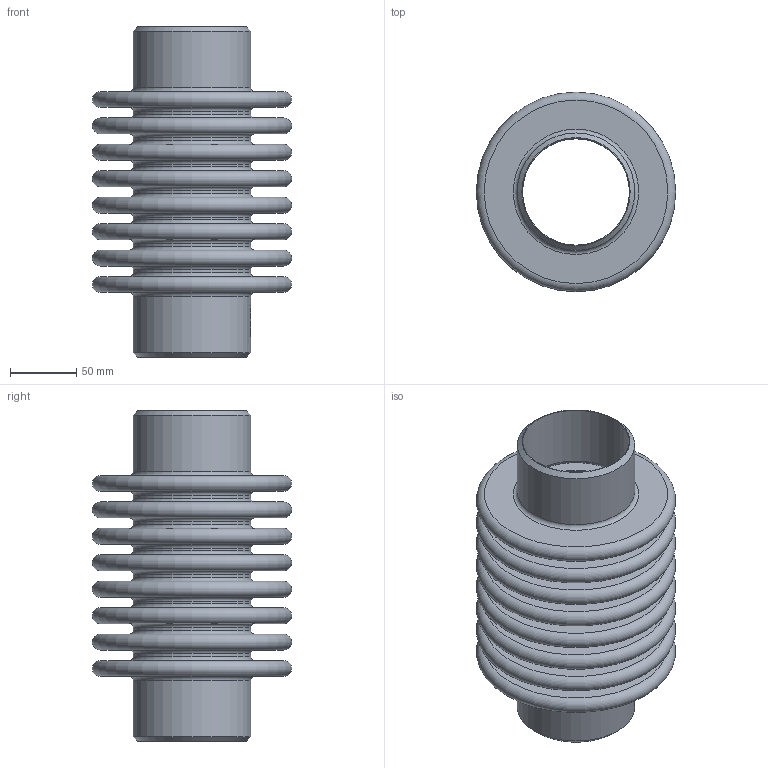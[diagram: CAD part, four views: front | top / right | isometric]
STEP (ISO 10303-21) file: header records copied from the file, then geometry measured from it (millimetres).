
FILE_DESCRIPTION(/* description */ ('D140-02123','CAx-IF Rec.Pracs.---Representation and Presentation of Product Manufacturing Information (PMI)---4.0---2014-10-13'),/* implementation_level */ '2;1');
FILE_NAME(/* name */ '',/* time_stamp */ '2026-04-13T21:13:38+03:00',/* author */ ('DN.RU'),/* organization */ ('DN.RU'),/* preprocessor_version */ 'ST-DEVELOPER v20',/* originating_system */ 'Autodesk Inventor 2025',/* authorisation */ '');
FILE_SCHEMA (('AP242_MANAGED_MODEL_BASED_3D_ENGINEERING_MIM_LF { 1 0 10303 442 1 1 4 }'));
Length unit declared in the file: millimetre
Products named in the file (1): CB-3131-W
Bounding box: 150.9 x 150.9 x 250 mm (x, y, z)
Volume: 329448.9 mm3; surface area: 496345.6 mm2
Topology: 1 solids, 1 shells, 298 faces, 729 edges, 486 vertices
Faces by surface type: plane 119, bspline 90, torus 48, cylinder 39, cone 2
Full cylindrical faces by diameter (mm): 80.9 x2, 86.9 x7, 88.9 x9
Entity records: 12495 total; most frequent: CARTESIAN_POINT 5141, ORIENTED_EDGE 1458, DIRECTION 1297, EDGE_CURVE 729, AXIS2_PLACEMENT_3D 510, VERTEX_POINT 486, STYLED_ITEM 368, EDGE_LOOP 353
